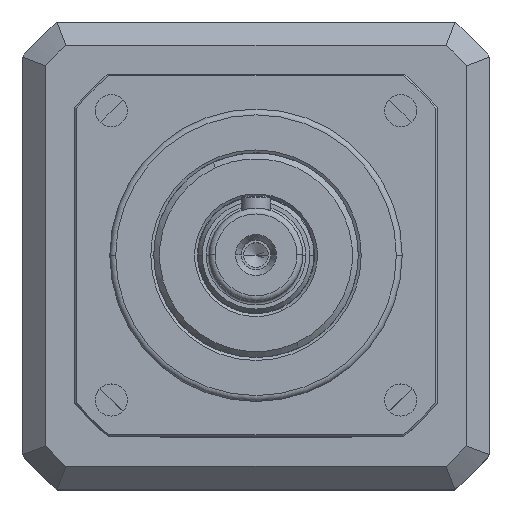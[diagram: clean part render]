
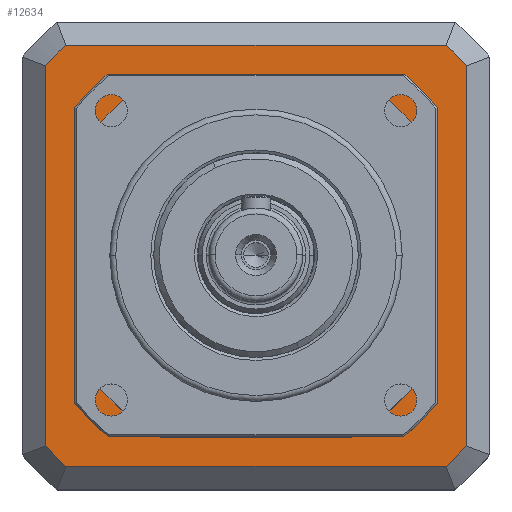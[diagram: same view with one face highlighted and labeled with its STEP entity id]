
A CAD part, top view. The second image highlights one B-rep face of the part: STEP entity #12634.
In plain terms, the highlighted planar face has unit normal (0, 0, 1).
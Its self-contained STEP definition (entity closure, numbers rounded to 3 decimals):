
#151 = DIRECTION ( 'NONE',  ( 0., 0., 1. ) ) ;
#324 = AXIS2_PLACEMENT_3D ( 'NONE', #9202, #151, #2990 ) ;
#408 = ORIENTED_EDGE ( 'NONE', *, *, #1776, .F. ) ;
#468 = CARTESIAN_POINT ( 'NONE',  ( 31., 16.248, -58. ) ) ;
#545 = FACE_BOUND ( 'NONE', #7634, .T. ) ;
#549 = DIRECTION ( 'NONE',  ( 0., 0., 1. ) ) ;
#639 = DIRECTION ( 'NONE',  ( 1., 0., 0. ) ) ;
#724 = CARTESIAN_POINT ( 'NONE',  ( -32.5, -36., -58. ) ) ;
#734 = DIRECTION ( 'NONE',  ( 1., 0., 0. ) ) ;
#963 = VERTEX_POINT ( 'NONE', #5481 ) ;
#1087 = ORIENTED_EDGE ( 'NONE', *, *, #12788, .F. ) ;
#1406 = EDGE_CURVE ( 'NONE', #1993, #11858, #17668, .T. ) ;
#1556 = DIRECTION ( 'NONE',  ( 1., 0., 0. ) ) ;
#1776 = EDGE_CURVE ( 'NONE', #19347, #17121, #19380, .T. ) ;
#1821 = CARTESIAN_POINT ( 'NONE',  ( 0., 0., -58. ) ) ;
#1837 = DIRECTION ( 'NONE',  ( 1., 0., 0. ) ) ;
#1853 = ORIENTED_EDGE ( 'NONE', *, *, #3843, .F. ) ;
#1979 = CARTESIAN_POINT ( 'NONE',  ( -16.248, 31., -58. ) ) ;
#1993 = VERTEX_POINT ( 'NONE', #2215 ) ;
#2100 = FACE_OUTER_BOUND ( 'NONE', #8335, .T. ) ;
#2129 = EDGE_CURVE ( 'NONE', #963, #10349, #13391, .T. ) ;
#2215 = CARTESIAN_POINT ( 'NONE',  ( 36., -32.5, -58. ) ) ;
#2365 = VERTEX_POINT ( 'NONE', #724 ) ;
#2466 = AXIS2_PLACEMENT_3D ( 'NONE', #1821, #15501, #4969 ) ;
#2990 = DIRECTION ( 'NONE',  ( 1., 0., 0. ) ) ;
#3125 = CIRCLE ( 'NONE', #7847, 35. ) ;
#3285 = CARTESIAN_POINT ( 'NONE',  ( -31., 16.248, -58. ) ) ;
#3480 = LINE ( 'NONE', #3285, #11920 ) ;
#3645 = VECTOR ( 'NONE', #5566, 1000. ) ;
#3776 = DIRECTION ( 'NONE',  ( 0., 0., 1. ) ) ;
#3843 = EDGE_CURVE ( 'NONE', #10006, #17707, #7903, .T. ) ;
#4188 = CARTESIAN_POINT ( 'NONE',  ( 16.248, 31., -58. ) ) ;
#4399 = CARTESIAN_POINT ( 'NONE',  ( 31., -16.248, -58. ) ) ;
#4400 = CIRCLE ( 'NONE', #324, 48.5 ) ;
#4464 = DIRECTION ( 'NONE',  ( 1., 0., 0. ) ) ;
#4583 = CARTESIAN_POINT ( 'NONE',  ( -36., -32.5, -58. ) ) ;
#4587 = CARTESIAN_POINT ( 'NONE',  ( -31., 16.248, -58. ) ) ;
#4666 = ORIENTED_EDGE ( 'NONE', *, *, #18136, .F. ) ;
#4897 = CIRCLE ( 'NONE', #5838, 35. ) ;
#4969 = DIRECTION ( 'NONE',  ( 1., 0., 0. ) ) ;
#5042 = VECTOR ( 'NONE', #15389, 1000. ) ;
#5481 = CARTESIAN_POINT ( 'NONE',  ( -32.5, 36., -58. ) ) ;
#5566 = DIRECTION ( 'NONE',  ( 0., 1., 0. ) ) ;
#5689 = ORIENTED_EDGE ( 'NONE', *, *, #2129, .T. ) ;
#5838 = AXIS2_PLACEMENT_3D ( 'NONE', #8214, #3776, #734 ) ;
#6092 = CARTESIAN_POINT ( 'NONE',  ( 0., 0., -58. ) ) ;
#6113 = VERTEX_POINT ( 'NONE', #4399 ) ;
#6196 = CARTESIAN_POINT ( 'NONE',  ( -16.248, -31., -58. ) ) ;
#6429 = DIRECTION ( 'NONE',  ( 1., 0., 0. ) ) ;
#6979 = VECTOR ( 'NONE', #9232, 1000. ) ;
#7000 = VERTEX_POINT ( 'NONE', #14989 ) ;
#7191 = ORIENTED_EDGE ( 'NONE', *, *, #18777, .T. ) ;
#7410 = ORIENTED_EDGE ( 'NONE', *, *, #11832, .T. ) ;
#7525 = CARTESIAN_POINT ( 'NONE',  ( 36., 32.5, -58. ) ) ;
#7634 = EDGE_LOOP ( 'NONE', ( #16832, #4666, #1853, #17702, #15936, #1087, #14473, #408 ) ) ;
#7690 = EDGE_CURVE ( 'NONE', #11858, #17528, #4400, .T. ) ;
#7706 = VERTEX_POINT ( 'NONE', #9008 ) ;
#7815 = LINE ( 'NONE', #15298, #12202 ) ;
#7844 = ORIENTED_EDGE ( 'NONE', *, *, #1406, .T. ) ;
#7847 = AXIS2_PLACEMENT_3D ( 'NONE', #11259, #17267, #14408 ) ;
#7903 = LINE ( 'NONE', #1979, #5042 ) ;
#8214 = CARTESIAN_POINT ( 'NONE',  ( 0., 0., -58. ) ) ;
#8335 = EDGE_LOOP ( 'NONE', ( #5689, #7410, #13099, #8395, #7191, #7844, #18548, #9909 ) ) ;
#8381 = AXIS2_PLACEMENT_3D ( 'NONE', #6092, #12082, #1837 ) ;
#8395 = ORIENTED_EDGE ( 'NONE', *, *, #11956, .T. ) ;
#9008 = CARTESIAN_POINT ( 'NONE',  ( 32.5, -36., -58. ) ) ;
#9076 = DIRECTION ( 'NONE',  ( 1., 0., 0. ) ) ;
#9202 = CARTESIAN_POINT ( 'NONE',  ( 0., 0., -58. ) ) ;
#9232 = DIRECTION ( 'NONE',  ( 0., 1., 0. ) ) ;
#9264 = CARTESIAN_POINT ( 'NONE',  ( 0., 0., -58. ) ) ;
#9423 = LINE ( 'NONE', #468, #6979 ) ;
#9430 = CARTESIAN_POINT ( 'NONE',  ( -16.248, 31., -58. ) ) ;
#9492 = DIRECTION ( 'NONE',  ( 0., -1., 0. ) ) ;
#9576 = CIRCLE ( 'NONE', #10213, 48.5 ) ;
#9606 = EDGE_CURVE ( 'NONE', #17121, #14193, #14938, .T. ) ;
#9789 = EDGE_CURVE ( 'NONE', #6113, #7000, #9423, .T. ) ;
#9909 = ORIENTED_EDGE ( 'NONE', *, *, #14411, .T. ) ;
#9998 = VECTOR ( 'NONE', #15000, 1000. ) ;
#10006 = VERTEX_POINT ( 'NONE', #4188 ) ;
#10032 = VERTEX_POINT ( 'NONE', #4583 ) ;
#10213 = AXIS2_PLACEMENT_3D ( 'NONE', #9264, #15278, #9076 ) ;
#10349 = VERTEX_POINT ( 'NONE', #11619 ) ;
#10545 = CARTESIAN_POINT ( 'NONE',  ( -16.248, -31., -58. ) ) ;
#10902 = VECTOR ( 'NONE', #16805, 1000. ) ;
#11063 = PLANE ( 'NONE',  #2466 ) ;
#11259 = CARTESIAN_POINT ( 'NONE',  ( 0., 0., -58. ) ) ;
#11272 = CARTESIAN_POINT ( 'NONE',  ( 36., 0., -58. ) ) ;
#11619 = CARTESIAN_POINT ( 'NONE',  ( -36., 32.5, -58. ) ) ;
#11832 = EDGE_CURVE ( 'NONE', #10349, #10032, #14803, .T. ) ;
#11858 = VERTEX_POINT ( 'NONE', #7525 ) ;
#11920 = VECTOR ( 'NONE', #9492, 1000. ) ;
#11948 = CARTESIAN_POINT ( 'NONE',  ( 0., 0., -58. ) ) ;
#11956 = EDGE_CURVE ( 'NONE', #2365, #7706, #7815, .T. ) ;
#12082 = DIRECTION ( 'NONE',  ( 0., 0., 1. ) ) ;
#12202 = VECTOR ( 'NONE', #6429, 1000. ) ;
#12243 = AXIS2_PLACEMENT_3D ( 'NONE', #11948, #13531, #4464 ) ;
#12522 = VERTEX_POINT ( 'NONE', #4587 ) ;
#12588 = CARTESIAN_POINT ( 'NONE',  ( 16.248, -31., -58. ) ) ;
#12621 = EDGE_CURVE ( 'NONE', #12522, #19347, #3480, .T. ) ;
#12634 = ADVANCED_FACE ( 'NONE', ( #2100, #545 ), #11063, .T. ) ;
#12788 = EDGE_CURVE ( 'NONE', #14193, #6113, #3125, .T. ) ;
#12954 = EDGE_CURVE ( 'NONE', #10032, #2365, #16012, .T. ) ;
#13099 = ORIENTED_EDGE ( 'NONE', *, *, #12954, .T. ) ;
#13391 = CIRCLE ( 'NONE', #18709, 48.5 ) ;
#13430 = CARTESIAN_POINT ( 'NONE',  ( -36., 0., -58. ) ) ;
#13451 = DIRECTION ( 'NONE',  ( 1., 0., 0. ) ) ;
#13531 = DIRECTION ( 'NONE',  ( 0., 0., 1. ) ) ;
#14193 = VERTEX_POINT ( 'NONE', #12588 ) ;
#14202 = VECTOR ( 'NONE', #1556, 1000. ) ;
#14408 = DIRECTION ( 'NONE',  ( 1., 0., 0. ) ) ;
#14411 = EDGE_CURVE ( 'NONE', #17528, #963, #16506, .T. ) ;
#14473 = ORIENTED_EDGE ( 'NONE', *, *, #9606, .F. ) ;
#14803 = LINE ( 'NONE', #13430, #9998 ) ;
#14938 = LINE ( 'NONE', #6196, #14202 ) ;
#14989 = CARTESIAN_POINT ( 'NONE',  ( 31., 16.248, -58. ) ) ;
#15000 = DIRECTION ( 'NONE',  ( 0., -1., 0. ) ) ;
#15038 = CARTESIAN_POINT ( 'NONE',  ( 0., 36., -58. ) ) ;
#15278 = DIRECTION ( 'NONE',  ( 0., 0., 1. ) ) ;
#15298 = CARTESIAN_POINT ( 'NONE',  ( 0., -36., -58. ) ) ;
#15389 = DIRECTION ( 'NONE',  ( -1., 0., 0. ) ) ;
#15501 = DIRECTION ( 'NONE',  ( 0., 0., 1. ) ) ;
#15884 = AXIS2_PLACEMENT_3D ( 'NONE', #17464, #549, #639 ) ;
#15936 = ORIENTED_EDGE ( 'NONE', *, *, #9789, .F. ) ;
#16012 = CIRCLE ( 'NONE', #12243, 48.5 ) ;
#16427 = CARTESIAN_POINT ( 'NONE',  ( 32.5, 36., -58. ) ) ;
#16506 = LINE ( 'NONE', #15038, #10902 ) ;
#16805 = DIRECTION ( 'NONE',  ( -1., 0., 0. ) ) ;
#16832 = ORIENTED_EDGE ( 'NONE', *, *, #12621, .F. ) ;
#17121 = VERTEX_POINT ( 'NONE', #10545 ) ;
#17267 = DIRECTION ( 'NONE',  ( 0., 0., 1. ) ) ;
#17464 = CARTESIAN_POINT ( 'NONE',  ( 0., 0., -58. ) ) ;
#17528 = VERTEX_POINT ( 'NONE', #16427 ) ;
#17668 = LINE ( 'NONE', #11272, #3645 ) ;
#17702 = ORIENTED_EDGE ( 'NONE', *, *, #18145, .F. ) ;
#17707 = VERTEX_POINT ( 'NONE', #9430 ) ;
#17870 = CARTESIAN_POINT ( 'NONE',  ( 0., 0., -58. ) ) ;
#18136 = EDGE_CURVE ( 'NONE', #17707, #12522, #4897, .T. ) ;
#18145 = EDGE_CURVE ( 'NONE', #7000, #10006, #19345, .T. ) ;
#18169 = DIRECTION ( 'NONE',  ( 0., 0., 1. ) ) ;
#18548 = ORIENTED_EDGE ( 'NONE', *, *, #7690, .T. ) ;
#18709 = AXIS2_PLACEMENT_3D ( 'NONE', #17870, #18169, #13451 ) ;
#18777 = EDGE_CURVE ( 'NONE', #7706, #1993, #9576, .T. ) ;
#19323 = CARTESIAN_POINT ( 'NONE',  ( -31., -16.248, -58. ) ) ;
#19345 = CIRCLE ( 'NONE', #15884, 35. ) ;
#19347 = VERTEX_POINT ( 'NONE', #19323 ) ;
#19380 = CIRCLE ( 'NONE', #8381, 35. ) ;
